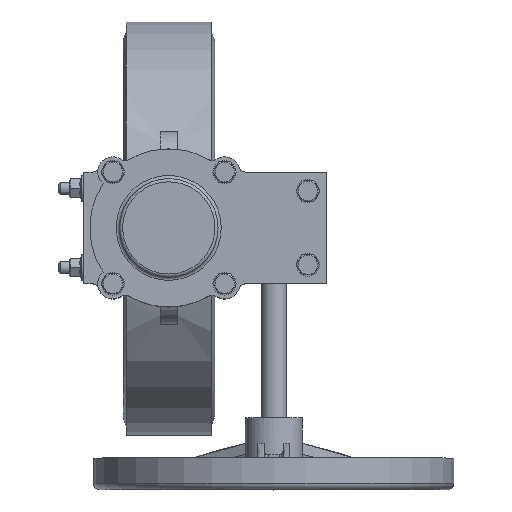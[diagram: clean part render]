
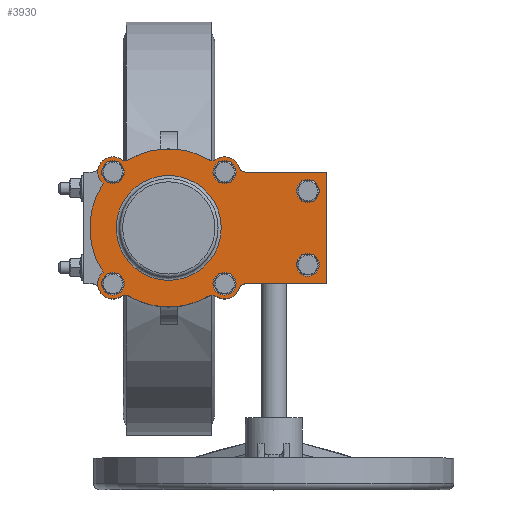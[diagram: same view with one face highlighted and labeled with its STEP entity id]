
A CAD part, top view. The second image highlights one B-rep face of the part: STEP entity #3930.
In plain terms, the highlighted planar face has unit normal (0, 0, 1).
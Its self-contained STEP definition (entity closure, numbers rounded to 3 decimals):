
#3930=ADVANCED_FACE('',(#8051,#8053,#8055,#8057,#8059,#8061,#8063,#8065),#8067,.T.);
#8051=FACE_BOUND('',#8052,.T.);
#8052=EDGE_LOOP('',(#14774,#14775,#14776,#14777,#14778,#14779,#14780,#14781,#14782,
#14783,#14784,#14785,#14786,#14787,#14788,#14789));
#8053=FACE_BOUND('',#8054,.T.);
#8054=EDGE_LOOP('',(#14790));
#8055=FACE_BOUND('',#8056,.T.);
#8056=EDGE_LOOP('',(#14791));
#8057=FACE_BOUND('',#8058,.T.);
#8058=EDGE_LOOP('',(#14792));
#8059=FACE_BOUND('',#8060,.T.);
#8060=EDGE_LOOP('',(#14793));
#8061=FACE_BOUND('',#8062,.T.);
#8062=EDGE_LOOP('',(#14794));
#8063=FACE_BOUND('',#8064,.T.);
#8064=EDGE_LOOP('',(#14795));
#8065=FACE_BOUND('',#8066,.T.);
#8066=EDGE_LOOP('',(#14796));
#8067=PLANE('',#8068);
#8068=AXIS2_PLACEMENT_3D('',#8069,#8070,#8071);
#8069=CARTESIAN_POINT('',(0.,0.,5.));
#8070=DIRECTION('',(0.,0.,1.));
#8071=DIRECTION('',(0.,1.,0.));
#14774=ORIENTED_EDGE('',*,*,#16611,.T.);
#14775=ORIENTED_EDGE('',*,*,#16612,.T.);
#14776=ORIENTED_EDGE('',*,*,#16613,.T.);
#14777=ORIENTED_EDGE('',*,*,#16614,.T.);
#14778=ORIENTED_EDGE('',*,*,#16615,.T.);
#14779=ORIENTED_EDGE('',*,*,#16616,.T.);
#14780=ORIENTED_EDGE('',*,*,#16617,.T.);
#14781=ORIENTED_EDGE('',*,*,#16618,.T.);
#14782=ORIENTED_EDGE('',*,*,#16619,.T.);
#14783=ORIENTED_EDGE('',*,*,#16620,.T.);
#14784=ORIENTED_EDGE('',*,*,#16621,.T.);
#14785=ORIENTED_EDGE('',*,*,#16622,.T.);
#14786=ORIENTED_EDGE('',*,*,#16623,.T.);
#14787=ORIENTED_EDGE('',*,*,#16624,.T.);
#14788=ORIENTED_EDGE('',*,*,#16625,.T.);
#14789=ORIENTED_EDGE('',*,*,#16626,.T.);
#14790=ORIENTED_EDGE('',*,*,#16627,.T.);
#14791=ORIENTED_EDGE('',*,*,#16628,.T.);
#14792=ORIENTED_EDGE('',*,*,#16629,.T.);
#14793=ORIENTED_EDGE('',*,*,#16630,.T.);
#14794=ORIENTED_EDGE('',*,*,#16631,.T.);
#14795=ORIENTED_EDGE('',*,*,#16632,.T.);
#14796=ORIENTED_EDGE('',*,*,#16633,.F.);
#16611=EDGE_CURVE('',#18921,#18922,#18923,.T.);
#16612=EDGE_CURVE('',#18922,#18924,#18925,.T.);
#16613=EDGE_CURVE('',#18924,#18926,#18927,.T.);
#16614=EDGE_CURVE('',#18926,#18928,#18929,.T.);
#16615=EDGE_CURVE('',#18928,#18930,#18931,.T.);
#16616=EDGE_CURVE('',#18930,#18932,#18933,.T.);
#16617=EDGE_CURVE('',#18932,#18934,#18935,.T.);
#16618=EDGE_CURVE('',#18934,#18936,#18937,.T.);
#16619=EDGE_CURVE('',#18936,#18938,#18939,.T.);
#16620=EDGE_CURVE('',#18938,#18940,#18941,.T.);
#16621=EDGE_CURVE('',#18940,#18942,#18943,.T.);
#16622=EDGE_CURVE('',#18942,#18944,#18945,.T.);
#16623=EDGE_CURVE('',#18944,#18946,#18947,.T.);
#16624=EDGE_CURVE('',#18946,#18948,#18949,.T.);
#16625=EDGE_CURVE('',#18948,#18950,#18951,.T.);
#16626=EDGE_CURVE('',#18950,#18921,#18952,.T.);
#16627=EDGE_CURVE('',#18953,#18953,#18954,.F.);
#16628=EDGE_CURVE('',#18955,#18955,#18956,.F.);
#16629=EDGE_CURVE('',#18957,#18957,#18958,.F.);
#16630=EDGE_CURVE('',#18959,#18959,#18960,.F.);
#16631=EDGE_CURVE('',#18961,#18961,#18962,.F.);
#16632=EDGE_CURVE('',#18963,#18963,#18964,.F.);
#16633=EDGE_CURVE('',#18965,#18965,#18966,.T.);
#18921=VERTEX_POINT('',#26412);
#18922=VERTEX_POINT('',#26413);
#18923=CIRCLE('',#26414,5.);
#18924=VERTEX_POINT('',#26418);
#18925=CIRCLE('',#26419,12.);
#18926=VERTEX_POINT('',#26423);
#18927=CIRCLE('',#26424,5.);
#18928=VERTEX_POINT('',#26428);
#18929=LINE('',#26429,#26430);
#18930=VERTEX_POINT('',#26432);
#18931=LINE('',#26433,#26434);
#18932=VERTEX_POINT('',#26436);
#18933=LINE('',#26437,#26438);
#18934=VERTEX_POINT('',#26440);
#18935=CIRCLE('',#26441,5.);
#18936=VERTEX_POINT('',#26445);
#18937=CIRCLE('',#26446,12.);
#18938=VERTEX_POINT('',#26450);
#18939=CIRCLE('',#26451,5.);
#18940=VERTEX_POINT('',#26455);
#18941=CIRCLE('',#26456,62.5);
#18942=VERTEX_POINT('',#26460);
#18943=CIRCLE('',#26461,5.);
#18944=VERTEX_POINT('',#26465);
#18945=CIRCLE('',#26466,12.);
#18946=VERTEX_POINT('',#26470);
#18947=CIRCLE('',#26471,62.5);
#18948=VERTEX_POINT('',#26475);
#18949=CIRCLE('',#26476,12.);
#18950=VERTEX_POINT('',#26480);
#18951=CIRCLE('',#26481,5.);
#18952=CIRCLE('',#26485,62.5);
#18953=VERTEX_POINT('',#26489);
#18954=CIRCLE('',#26490,5.);
#18955=VERTEX_POINT('',#26494);
#18956=CIRCLE('',#26495,5.);
#18957=VERTEX_POINT('',#26499);
#18958=CIRCLE('',#26500,5.);
#18959=VERTEX_POINT('',#26504);
#18960=CIRCLE('',#26505,5.);
#18961=VERTEX_POINT('',#26509);
#18962=CIRCLE('',#26510,5.);
#18963=VERTEX_POINT('',#26514);
#18964=CIRCLE('',#26515,5.);
#18965=VERTEX_POINT('',#26519);
#18966=CIRCLE('',#26520,41.5);
#26412=CARTESIAN_POINT('',(53.78,31.843,5.));
#26413=CARTESIAN_POINT('',(53.998,37.274,5.));
#26414=AXIS2_PLACEMENT_3D('',#26415,#26416,#26417);
#26415=CARTESIAN_POINT('',(58.082,34.39,5.));
#26416=DIRECTION('',(0.,0.,-1.));
#26417=DIRECTION('',(-0.86,-0.509,0.));
#26418=CARTESIAN_POINT('',(47.724,55.663,5.));
#26419=AXIS2_PLACEMENT_3D('',#26420,#26421,#26422);
#26420=CARTESIAN_POINT('',(44.194,44.194,5.));
#26421=DIRECTION('',(0.,0.,1.));
#26422=DIRECTION('',(0.817,-0.577,0.));
#26423=CARTESIAN_POINT('',(44.194,60.442,5.));
#26424=AXIS2_PLACEMENT_3D('',#26425,#26426,#26427);
#26425=CARTESIAN_POINT('',(49.194,60.442,5.));
#26426=DIRECTION('',(0.,0.,-1.));
#26427=DIRECTION('',(-0.294,-0.956,0.));
#26428=CARTESIAN_POINT('',(44.194,125.,5.));
#26429=CARTESIAN_POINT('',(44.194,60.442,5.));
#26430=VECTOR('',#26431,1.);
#26431=DIRECTION('',(0.,1.,0.));
#26432=CARTESIAN_POINT('',(-44.194,125.,5.));
#26433=CARTESIAN_POINT('',(44.194,125.,5.));
#26434=VECTOR('',#26435,1.);
#26435=DIRECTION('',(-1.,0.,0.));
#26436=CARTESIAN_POINT('',(-44.194,60.442,5.));
#26437=CARTESIAN_POINT('',(-44.194,125.,5.));
#26438=VECTOR('',#26439,1.);
#26439=DIRECTION('',(0.,-1.,0.));
#26440=CARTESIAN_POINT('',(-47.724,55.663,5.));
#26441=AXIS2_PLACEMENT_3D('',#26442,#26443,#26444);
#26442=CARTESIAN_POINT('',(-49.194,60.442,5.));
#26443=DIRECTION('',(0.,0.,-1.));
#26444=DIRECTION('',(1.,0.,0.));
#26445=CARTESIAN_POINT('',(-53.998,37.274,5.));
#26446=AXIS2_PLACEMENT_3D('',#26447,#26448,#26449);
#26447=CARTESIAN_POINT('',(-44.194,44.194,5.));
#26448=DIRECTION('',(0.,0.,1.));
#26449=DIRECTION('',(-0.294,0.956,0.));
#26450=CARTESIAN_POINT('',(-53.78,31.843,5.));
#26451=AXIS2_PLACEMENT_3D('',#26452,#26453,#26454);
#26452=CARTESIAN_POINT('',(-58.082,34.39,5.));
#26453=DIRECTION('',(0.,0.,-1.));
#26454=DIRECTION('',(0.817,0.577,0.));
#26455=CARTESIAN_POINT('',(-53.78,-31.843,5.));
#26456=AXIS2_PLACEMENT_3D('',#26457,#26458,#26459);
#26457=CARTESIAN_POINT('',(0.,0.,5.));
#26458=DIRECTION('',(0.,0.,1.));
#26459=DIRECTION('',(-0.86,0.509,0.));
#26460=CARTESIAN_POINT('',(-53.998,-37.274,5.));
#26461=AXIS2_PLACEMENT_3D('',#26462,#26463,#26464);
#26462=CARTESIAN_POINT('',(-58.082,-34.39,5.));
#26463=DIRECTION('',(0.,0.,-1.));
#26464=DIRECTION('',(0.86,0.509,0.));
#26465=CARTESIAN_POINT('',(-34.933,-51.826,5.));
#26466=AXIS2_PLACEMENT_3D('',#26467,#26468,#26469);
#26467=CARTESIAN_POINT('',(-44.194,-44.194,5.));
#26468=DIRECTION('',(0.,0.,1.));
#26469=DIRECTION('',(-0.817,0.577,0.));
#26470=CARTESIAN_POINT('',(34.933,-51.826,5.));
#26471=AXIS2_PLACEMENT_3D('',#26472,#26473,#26474);
#26472=CARTESIAN_POINT('',(0.,0.,5.));
#26473=DIRECTION('',(0.,0.,1.));
#26474=DIRECTION('',(-0.559,-0.829,0.));
#26475=CARTESIAN_POINT('',(53.998,-37.274,5.));
#26476=AXIS2_PLACEMENT_3D('',#26477,#26478,#26479);
#26477=CARTESIAN_POINT('',(44.194,-44.194,5.));
#26478=DIRECTION('',(0.,0.,1.));
#26479=DIRECTION('',(-0.772,-0.636,0.));
#26480=CARTESIAN_POINT('',(53.78,-31.843,5.));
#26481=AXIS2_PLACEMENT_3D('',#26482,#26483,#26484);
#26482=CARTESIAN_POINT('',(58.082,-34.39,5.));
#26483=DIRECTION('',(0.,0.,-1.));
#26484=DIRECTION('',(-0.817,-0.577,0.));
#26485=AXIS2_PLACEMENT_3D('',#26486,#26487,#26488);
#26486=CARTESIAN_POINT('',(0.,0.,5.));
#26487=DIRECTION('',(0.,0.,1.));
#26488=DIRECTION('',(0.86,-0.509,0.));
#26489=CARTESIAN_POINT('',(29.194,115.,5.));
#26490=AXIS2_PLACEMENT_3D('',#26491,#26492,#26493);
#26491=CARTESIAN_POINT('',(29.194,110.,5.));
#26492=DIRECTION('',(0.,0.,1.));
#26493=DIRECTION('',(0.,1.,0.));
#26494=CARTESIAN_POINT('',(-29.194,115.,5.));
#26495=AXIS2_PLACEMENT_3D('',#26496,#26497,#26498);
#26496=CARTESIAN_POINT('',(-29.194,110.,5.));
#26497=DIRECTION('',(0.,0.,1.));
#26498=DIRECTION('',(0.,1.,0.));
#26499=CARTESIAN_POINT('',(44.194,49.194,5.));
#26500=AXIS2_PLACEMENT_3D('',#26501,#26502,#26503);
#26501=CARTESIAN_POINT('',(44.194,44.194,5.));
#26502=DIRECTION('',(0.,0.,1.));
#26503=DIRECTION('',(0.,1.,0.));
#26504=CARTESIAN_POINT('',(49.194,-44.194,5.));
#26505=AXIS2_PLACEMENT_3D('',#26506,#26507,#26508);
#26506=CARTESIAN_POINT('',(44.194,-44.194,5.));
#26507=DIRECTION('',(0.,0.,1.));
#26508=DIRECTION('',(1.,0.,0.));
#26509=CARTESIAN_POINT('',(-44.194,-49.194,5.));
#26510=AXIS2_PLACEMENT_3D('',#26511,#26512,#26513);
#26511=CARTESIAN_POINT('',(-44.194,-44.194,5.));
#26512=DIRECTION('',(0.,0.,1.));
#26513=DIRECTION('',(0.,-1.,0.));
#26514=CARTESIAN_POINT('',(-49.194,44.194,5.));
#26515=AXIS2_PLACEMENT_3D('',#26516,#26517,#26518);
#26516=CARTESIAN_POINT('',(-44.194,44.194,5.));
#26517=DIRECTION('',(0.,0.,1.));
#26518=DIRECTION('',(-1.,0.,0.));
#26519=CARTESIAN_POINT('',(-41.5,0.,5.));
#26520=AXIS2_PLACEMENT_3D('',#26521,#26522,#26523);
#26521=CARTESIAN_POINT('',(0.,0.,5.));
#26522=DIRECTION('',(0.,0.,1.));
#26523=DIRECTION('',(-1.,0.,0.));
